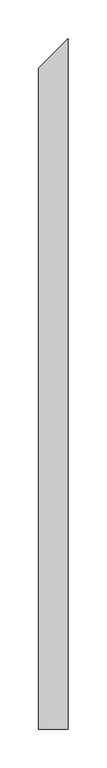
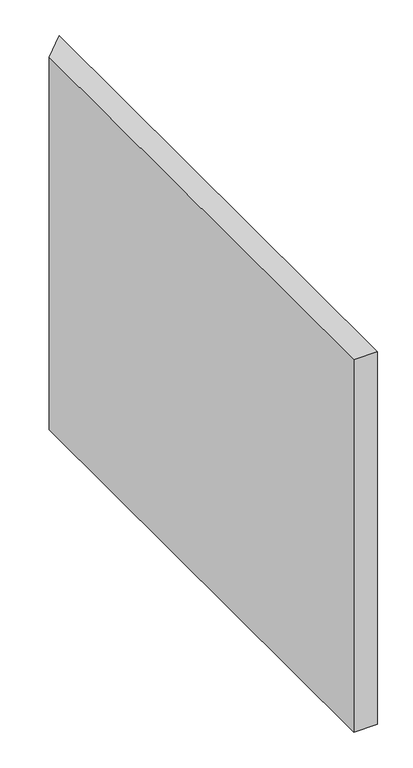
"""IFC4 building model written with IfcOpenShell, lengths in millimetres: proxy geometry, FOUNDATION^STANDARD CREDENZA_WEBSITE DETAIL-RIGHT END."""

from ifc_helpers import new_model, si_unit, origin, origin_with_axes, place, context, project, spatial, polyline, outline, extrude, source, transform, mapped, element, save


def generic_models_3ca25c78(model_context):
    return source(origin(), model_context, "Body", "SweptSolid", [
        extrude(outline(polyline([(2400.3, 850.9), (2438.4, 889.0), (2438.4, 0.0), (2400.3, 0.0), (2400.3, 850.9)])), origin_with_axes(), (0.0, 0.0, 1.0), 635.0),
    ])


if __name__ == "__main__":
    model = new_model("IFC4")
    model_context = context("Model", 3, world=origin())
    ifc_project = project(units=[si_unit("LENGTHUNIT", "METRE", prefix="MILLI")], contexts=[model_context])
    site = spatial("IfcSite", under=ifc_project)
    building = spatial("IfcBuilding", under=site)
    placement = place(None, origin())
    generic_models_shape = generic_models_3ca25c78(model_context)
    element("IfcBuildingElementProxy", 1, Name="FOUNDATION^STANDARD CREDENZA_WEBSITE DETAIL-RIGHT END", ObjectType="FOUNDATION^STANDARD CREDENZA_WEBSITE DETAIL-RIGHT END", at=placement, inside=building, context=model_context, shape_type="MappedRepresentation", body=[
        mapped(generic_models_shape, transform((0.0, 0.0, 0.0), x_axis=(1.0, 0.0, 0.0), y_axis=(0.0, 1.0, 0.0), z_axis=(0.0, 0.0, 1.0))),
    ])
    save(model, "model.ifc")
